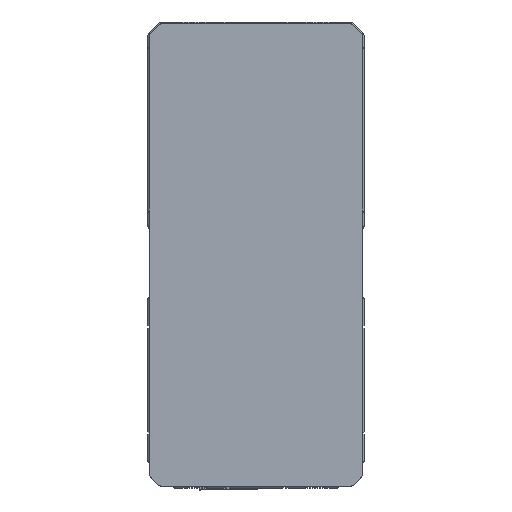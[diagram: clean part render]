
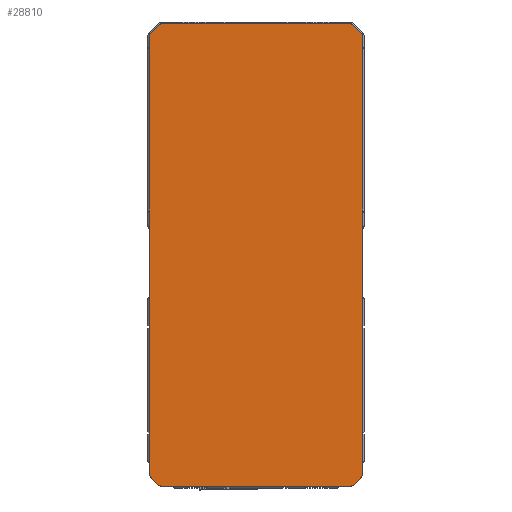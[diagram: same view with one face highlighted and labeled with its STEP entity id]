
A CAD part, top view. The second image highlights one B-rep face of the part: STEP entity #28810.
In plain terms, the highlighted planar face has unit normal (0, 0, 1).
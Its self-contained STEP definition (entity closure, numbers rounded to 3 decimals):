
#2134 = EDGE_CURVE ( 'NONE', #12979, #25073, #27271, .T. ) ;
#2532 = CIRCLE ( 'NONE', #21464, 1.5 ) ;
#3175 = EDGE_CURVE ( 'NONE', #28543, #17464, #20386, .T. ) ;
#3342 = ORIENTED_EDGE ( 'NONE', *, *, #16756, .T. ) ;
#3706 = VECTOR ( 'NONE', #32009, 1000. ) ;
#3910 = DIRECTION ( 'NONE',  ( -1., 0., 0. ) ) ;
#4589 = VERTEX_POINT ( 'NONE', #33199 ) ;
#4751 = CARTESIAN_POINT ( 'NONE',  ( 30.5, 28.079, 294. ) ) ;
#5339 = VERTEX_POINT ( 'NONE', #31209 ) ;
#5369 = DIRECTION ( 'NONE',  ( 0., 0., 1. ) ) ;
#5592 = CARTESIAN_POINT ( 'NONE',  ( -32., 28.079, 294. ) ) ;
#5898 = DIRECTION ( 'NONE',  ( -0.707, -0.707, 0. ) ) ;
#6253 = CARTESIAN_POINT ( 'NONE',  ( 28.079, 30.5, 294. ) ) ;
#6267 = CARTESIAN_POINT ( 'NONE',  ( -32., 28.079, 294. ) ) ;
#6367 = AXIS2_PLACEMENT_3D ( 'NONE', #34252, #15624, #37405 ) ;
#6864 = EDGE_LOOP ( 'NONE', ( #24687, #9658, #16769, #15736, #39198, #9768, #3342, #7843, #20222, #29881, #28600, #17606, #18798, #36808, #32469, #31809 ) ) ;
#7201 = VECTOR ( 'NONE', #24296, 1000. ) ;
#7733 = FACE_OUTER_BOUND ( 'NONE', #6864, .T. ) ;
#7772 = CIRCLE ( 'NONE', #29017, 1.5 ) ;
#7839 = CARTESIAN_POINT ( 'NONE',  ( 28.079, -107., 294. ) ) ;
#7843 = ORIENTED_EDGE ( 'NONE', *, *, #24387, .T. ) ;
#7899 = DIRECTION ( 'NONE',  ( -1., 0., 0. ) ) ;
#8446 = DIRECTION ( 'NONE',  ( 0., 0., 1. ) ) ;
#9396 = DIRECTION ( 'NONE',  ( 1., 0., 0. ) ) ;
#9408 = AXIS2_PLACEMENT_3D ( 'NONE', #27063, #8446, #30192 ) ;
#9658 = ORIENTED_EDGE ( 'NONE', *, *, #34907, .T. ) ;
#9768 = ORIENTED_EDGE ( 'NONE', *, *, #22602, .T. ) ;
#9949 = CARTESIAN_POINT ( 'NONE',  ( 29.139, 31.561, 294. ) ) ;
#11218 = VECTOR ( 'NONE', #20557, 1000. ) ;
#11363 = EDGE_CURVE ( 'NONE', #17464, #39328, #26875, .T. ) ;
#11630 = VERTEX_POINT ( 'NONE', #39491 ) ;
#11693 = CIRCLE ( 'NONE', #9408, 1.5 ) ;
#11989 = CARTESIAN_POINT ( 'NONE',  ( -29.139, 31.561, 294. ) ) ;
#12007 = LINE ( 'NONE', #32140, #3706 ) ;
#12979 = VERTEX_POINT ( 'NONE', #18084 ) ;
#13434 = DIRECTION ( 'NONE',  ( 0., 0., 1. ) ) ;
#13546 = AXIS2_PLACEMENT_3D ( 'NONE', #14307, #36092, #17462 ) ;
#13591 = EDGE_CURVE ( 'NONE', #25073, #11630, #22796, .T. ) ;
#14200 = VECTOR ( 'NONE', #31695, 1000. ) ;
#14307 = CARTESIAN_POINT ( 'NONE',  ( -30.5, 28.079, 294. ) ) ;
#14657 = CARTESIAN_POINT ( 'NONE',  ( 31.561, 29.139, 294. ) ) ;
#15184 = CARTESIAN_POINT ( 'NONE',  ( -31.561, 29.139, 294. ) ) ;
#15348 = DIRECTION ( 'NONE',  ( 0., 1., 0. ) ) ;
#15454 = VERTEX_POINT ( 'NONE', #32318 ) ;
#15589 = VECTOR ( 'NONE', #5898, 1000. ) ;
#15624 = DIRECTION ( 'NONE',  ( 0., 0., 1. ) ) ;
#15736 = ORIENTED_EDGE ( 'NONE', *, *, #13591, .T. ) ;
#16427 = VECTOR ( 'NONE', #29948, 1000. ) ;
#16666 = VECTOR ( 'NONE', #28604, 1000. ) ;
#16756 = EDGE_CURVE ( 'NONE', #15454, #19743, #11693, .T. ) ;
#16769 = ORIENTED_EDGE ( 'NONE', *, *, #2134, .T. ) ;
#17137 = AXIS2_PLACEMENT_3D ( 'NONE', #32071, #13434, #35210 ) ;
#17462 = DIRECTION ( 'NONE',  ( 1., 0., 0. ) ) ;
#17464 = VERTEX_POINT ( 'NONE', #37251 ) ;
#17571 = VERTEX_POINT ( 'NONE', #28363 ) ;
#17606 = ORIENTED_EDGE ( 'NONE', *, *, #22809, .T. ) ;
#17771 = DIRECTION ( 'NONE',  ( 0., 0., 1. ) ) ;
#18084 = CARTESIAN_POINT ( 'NONE',  ( -31.561, 29.139, 294. ) ) ;
#18798 = ORIENTED_EDGE ( 'NONE', *, *, #28336, .T. ) ;
#18966 = VERTEX_POINT ( 'NONE', #14657 ) ;
#19140 = EDGE_CURVE ( 'NONE', #11630, #21955, #26550, .T. ) ;
#19357 = CARTESIAN_POINT ( 'NONE',  ( -28.079, 32., 294. ) ) ;
#19451 = CARTESIAN_POINT ( 'NONE',  ( -28.079, 30.5, 294. ) ) ;
#19743 = VERTEX_POINT ( 'NONE', #27936 ) ;
#19971 = LINE ( 'NONE', #33995, #35547 ) ;
#20222 = ORIENTED_EDGE ( 'NONE', *, *, #27816, .T. ) ;
#20326 = CARTESIAN_POINT ( 'NONE',  ( -31.561, -104.139, 294. ) ) ;
#20386 = CIRCLE ( 'NONE', #22991, 1.5 ) ;
#20509 = EDGE_CURVE ( 'NONE', #39328, #29930, #39116, .T. ) ;
#20557 = DIRECTION ( 'NONE',  ( 0.707, -0.707, 0. ) ) ;
#21464 = AXIS2_PLACEMENT_3D ( 'NONE', #36401, #17771, #39538 ) ;
#21955 = VERTEX_POINT ( 'NONE', #20326 ) ;
#22482 = LINE ( 'NONE', #9949, #14200 ) ;
#22569 = DIRECTION ( 'NONE',  ( 0., 0., -1. ) ) ;
#22602 = EDGE_CURVE ( 'NONE', #21955, #15454, #35065, .T. ) ;
#22796 = LINE ( 'NONE', #5592, #7201 ) ;
#22809 = EDGE_CURVE ( 'NONE', #4589, #17571, #19971, .T. ) ;
#22991 = AXIS2_PLACEMENT_3D ( 'NONE', #6253, #28025, #9396 ) ;
#23582 = CIRCLE ( 'NONE', #35220, 1.5 ) ;
#23674 = CARTESIAN_POINT ( 'NONE',  ( -31.561, -104.139, 294. ) ) ;
#23863 = LINE ( 'NONE', #15184, #15589 ) ;
#24059 = CARTESIAN_POINT ( 'NONE',  ( 30.5, -103.079, 294. ) ) ;
#24296 = DIRECTION ( 'NONE',  ( 0., -1., 0. ) ) ;
#24387 = EDGE_CURVE ( 'NONE', #19743, #38240, #33952, .T. ) ;
#24518 = CARTESIAN_POINT ( 'NONE',  ( 29.139, 31.561, 294. ) ) ;
#24681 = EDGE_CURVE ( 'NONE', #5339, #39830, #12007, .T. ) ;
#24687 = ORIENTED_EDGE ( 'NONE', *, *, #20509, .T. ) ;
#25073 = VERTEX_POINT ( 'NONE', #6267 ) ;
#25381 = AXIS2_PLACEMENT_3D ( 'NONE', #19451, #22569, #3910 ) ;
#26026 = EDGE_CURVE ( 'NONE', #39830, #4589, #23582, .T. ) ;
#26535 = DIRECTION ( 'NONE',  ( 0., 0., 1. ) ) ;
#26550 = CIRCLE ( 'NONE', #6367, 1.5 ) ;
#26875 = LINE ( 'NONE', #19357, #16666 ) ;
#27063 = CARTESIAN_POINT ( 'NONE',  ( -28.079, -105.5, 294. ) ) ;
#27161 = DIRECTION ( 'NONE',  ( 1., 0., 0. ) ) ;
#27271 = CIRCLE ( 'NONE', #13546, 1.5 ) ;
#27816 = EDGE_CURVE ( 'NONE', #38240, #5339, #2532, .T. ) ;
#27936 = CARTESIAN_POINT ( 'NONE',  ( -28.079, -107., 294. ) ) ;
#28025 = DIRECTION ( 'NONE',  ( 0., 0., 1. ) ) ;
#28336 = EDGE_CURVE ( 'NONE', #17571, #18966, #7772, .T. ) ;
#28363 = CARTESIAN_POINT ( 'NONE',  ( 32., 28.079, 294. ) ) ;
#28543 = VERTEX_POINT ( 'NONE', #24518 ) ;
#28600 = ORIENTED_EDGE ( 'NONE', *, *, #26026, .T. ) ;
#28604 = DIRECTION ( 'NONE',  ( -1., 0., 0. ) ) ;
#28810 = ADVANCED_FACE ( 'NONE', ( #7733 ), #38102, .F. ) ;
#29017 = AXIS2_PLACEMENT_3D ( 'NONE', #4751, #26535, #7899 ) ;
#29509 = CARTESIAN_POINT ( 'NONE',  ( -28.079, 32., 294. ) ) ;
#29881 = ORIENTED_EDGE ( 'NONE', *, *, #24681, .T. ) ;
#29930 = VERTEX_POINT ( 'NONE', #11989 ) ;
#29948 = DIRECTION ( 'NONE',  ( 1., 0., 0. ) ) ;
#30192 = DIRECTION ( 'NONE',  ( 1., 0., 0. ) ) ;
#31209 = CARTESIAN_POINT ( 'NONE',  ( 29.139, -106.561, 294. ) ) ;
#31695 = DIRECTION ( 'NONE',  ( -0.707, 0.707, 0. ) ) ;
#31809 = ORIENTED_EDGE ( 'NONE', *, *, #11363, .T. ) ;
#32009 = DIRECTION ( 'NONE',  ( 0.707, 0.707, 0. ) ) ;
#32071 = CARTESIAN_POINT ( 'NONE',  ( -28.079, 30.5, 294. ) ) ;
#32140 = CARTESIAN_POINT ( 'NONE',  ( 29.139, -106.561, 294. ) ) ;
#32318 = CARTESIAN_POINT ( 'NONE',  ( -29.139, -106.561, 294. ) ) ;
#32469 = ORIENTED_EDGE ( 'NONE', *, *, #3175, .T. ) ;
#33199 = CARTESIAN_POINT ( 'NONE',  ( 32., -103.079, 294. ) ) ;
#33887 = EDGE_CURVE ( 'NONE', #18966, #28543, #22482, .T. ) ;
#33952 = LINE ( 'NONE', #39883, #16427 ) ;
#33995 = CARTESIAN_POINT ( 'NONE',  ( 32., 28.079, 294. ) ) ;
#34252 = CARTESIAN_POINT ( 'NONE',  ( -30.5, -103.079, 294. ) ) ;
#34907 = EDGE_CURVE ( 'NONE', #29930, #12979, #23863, .T. ) ;
#35065 = LINE ( 'NONE', #23674, #11218 ) ;
#35210 = DIRECTION ( 'NONE',  ( -1., 0., 0. ) ) ;
#35220 = AXIS2_PLACEMENT_3D ( 'NONE', #24059, #5369, #27161 ) ;
#35330 = CARTESIAN_POINT ( 'NONE',  ( 31.561, -104.139, 294. ) ) ;
#35547 = VECTOR ( 'NONE', #15348, 1000. ) ;
#36092 = DIRECTION ( 'NONE',  ( 0., 0., 1. ) ) ;
#36401 = CARTESIAN_POINT ( 'NONE',  ( 28.079, -105.5, 294. ) ) ;
#36808 = ORIENTED_EDGE ( 'NONE', *, *, #33887, .T. ) ;
#37251 = CARTESIAN_POINT ( 'NONE',  ( 28.079, 32., 294. ) ) ;
#37405 = DIRECTION ( 'NONE',  ( -1., 0., 0. ) ) ;
#38102 = PLANE ( 'NONE',  #25381 ) ;
#38240 = VERTEX_POINT ( 'NONE', #7839 ) ;
#39116 = CIRCLE ( 'NONE', #17137, 1.5 ) ;
#39198 = ORIENTED_EDGE ( 'NONE', *, *, #19140, .T. ) ;
#39328 = VERTEX_POINT ( 'NONE', #29509 ) ;
#39491 = CARTESIAN_POINT ( 'NONE',  ( -32., -103.079, 294. ) ) ;
#39538 = DIRECTION ( 'NONE',  ( -1., 0., 0. ) ) ;
#39830 = VERTEX_POINT ( 'NONE', #35330 ) ;
#39883 = CARTESIAN_POINT ( 'NONE',  ( -28.079, -107., 294. ) ) ;
